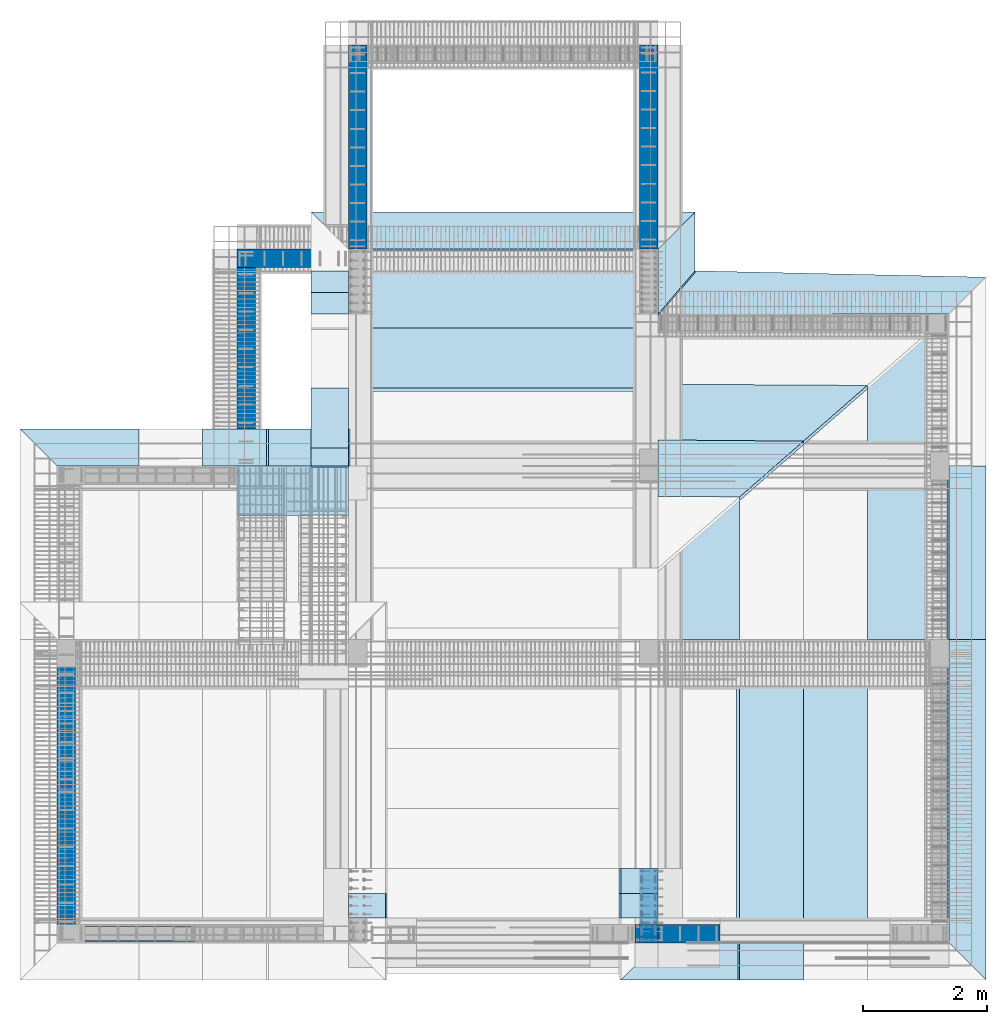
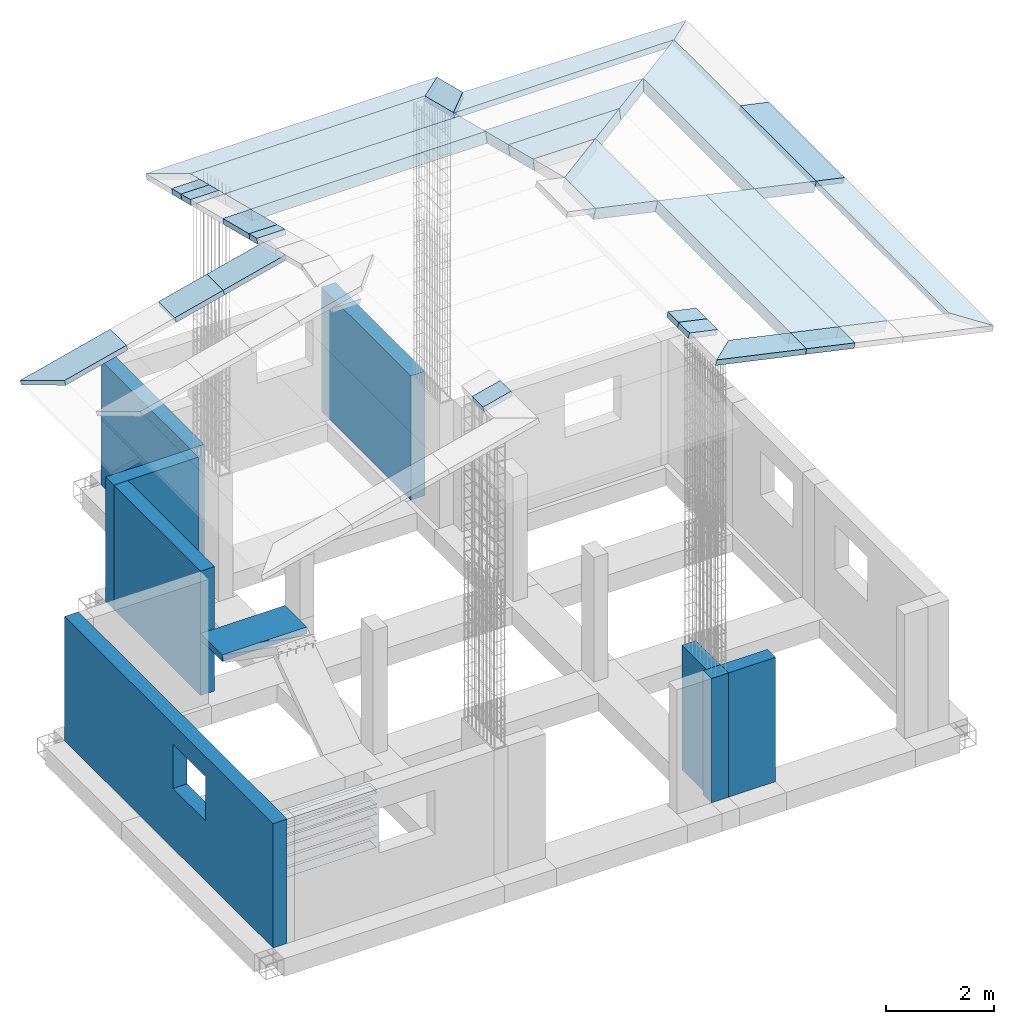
# One storey, part 2 of 15: 25 slabs, 9 walls, 1 reinforcing bar, 1 opening.
"""IFC4 building model written with IfcOpenShell, lengths in metres."""

from ifc_helpers import new_model, entity, si_unit, frame, frame_2d, origin_with_axes, origin_2d_with_axis, place, context, project, spatial, polyline, rectangle, outline, extrude, faceted_brep, source, transform, mapped, material, layer, layer_set, layer_usage, type_object, element, save


model = new_model("IFC4")

# Units and contexts
model_context = context("Model", 3, precision=1e-05, world=origin_with_axes())
ifc_project = project(units=[si_unit("LENGTHUNIT", "METRE"), si_unit("AREAUNIT", "SQUARE_METRE"), si_unit("VOLUMEUNIT", "CUBIC_METRE"), si_unit("MASSUNIT", "GRAM", prefix="KILO"), si_unit("TIMEUNIT", "SECOND"), si_unit("PLANEANGLEUNIT", "RADIAN"), si_unit("SOLIDANGLEUNIT", "STERADIAN"), si_unit("THERMODYNAMICTEMPERATUREUNIT", "DEGREE_CELSIUS")], contexts=[model_context])

# Site, building, storey
placement_1 = place(None, origin_with_axes())
site = spatial("IfcSite", under=ifc_project, at=placement_1, Name="Italia", CompositionType="ELEMENT")
building = spatial("IfcBuilding", under=site, at=placement_1, Name="Bifamiliare", CompositionType="ELEMENT")
storey = spatial("IfcBuildingStorey", under=building, at=placement_1, Name="Storey 0", CompositionType="ELEMENT", Elevation=0.0)

# Slabs
ifc_material_1 = material(Name="Concrete", Category="Concrete")
slab_type_1 = type_object("IfcSlabType", Name="2 Solaio copertura", PredefinedType="FLOOR", material=ifc_material_1)
placement_2 = place(placement_1, origin_with_axes())
slab_1_placement = place(placement_2, origin_with_axes())
element("IfcSlab", 1, at=slab_1_placement, inside=storey, type_object=slab_type_1, Name="304", context=model_context, shape_type="SweptSolid", body=[
    extrude(outline(polyline([(0.0, 0.0), (-5.0, 0.0), (-5.0, 0.999968), (0.0, 0.999968), (0.0, 0.938114), (0.0, 0.0)])), frame((10.8, 11.33, 9.31812), z_axis=(0.0, -0.242980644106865, -0.970031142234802), x_axis=(1.0, 0.0, 0.0)), (0.0, 0.0, 1.0), 0.24),
])
ifc_material_2 = material(Name="Concrete", Category="Concrete")
slab_type_2 = type_object("IfcSlabType", Name="2 Solaio copertura", PredefinedType="FLOOR", material=ifc_material_2)
slab_2_placement = place(placement_2, origin_with_axes())
element("IfcSlab", 2, at=slab_2_placement, inside=storey, type_object=slab_type_2, Name="305", context=model_context, shape_type="SweptSolid", body=[
    extrude(outline(polyline([(0.0, 0.0), (-5.0, 0.0), (-5.0, 0.360814), (-5.0, 0.721626), (-5.0, 1.08244), (-5.0, 1.30924), (0.0, 1.30924), (0.0, 1.08244), (0.0, 0.721626), (0.0, 0.360814), (0.0, 0.0)])), frame((10.8, 12.6, 9.0), z_axis=(0.0, -0.242980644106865, -0.970031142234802), x_axis=(1.0, 0.0, 0.0)), (0.0, 0.0, 1.0), 0.24),
])
ifc_material_3 = material(Name="Concrete", Category="Concrete")
slab_type_3 = type_object("IfcSlabType", Name="2 Solaio copertura", PredefinedType="FLOOR", material=ifc_material_3)
slab_3_placement = place(placement_2, origin_with_axes())
element("IfcSlab", 3, at=slab_3_placement, inside=storey, type_object=slab_type_3, Name="307", context=model_context, shape_type="SweptSolid", body=[
    extrude(outline(polyline([(0.0, 0.0), (0.000385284, 0.134015), (0.00124454, 0.432973), (0.00269699, 0.93811), (1.32272, 0.944329), (2.35005, 0.0134974), (0.0, 0.0)])), frame((10.8, 9.52, 9.77149), z_axis=(-0.000719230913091, -0.242738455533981, -0.97009152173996), x_axis=(0.999995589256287, -0.00296297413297, 0.0)), (0.0, 0.0, 1.0), 0.239999),
])
ifc_material_4 = material(Name="Concrete", Category="Concrete")
slab_type_4 = type_object("IfcSlabType", Name="2 Solaio copertura", PredefinedType="FLOOR", material=ifc_material_4)
slab_4_placement = place(placement_2, origin_with_axes())
element("IfcSlab", 4, at=slab_4_placement, inside=storey, type_object=slab_type_4, Name="308", context=model_context, shape_type="SweptSolid", body=[
    extrude(outline(polyline([(0.0, 0.0), (0.000137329, 0.0618534), (0.00206184, 0.927803), (2.3521, 0.942833), (3.38004, 0.012671), (0.0, 0.0)])), frame((10.8, 10.42, 9.54606), z_axis=(-0.000556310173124, -0.242825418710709, -0.970069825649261), x_axis=(0.99999737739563, -0.002290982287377, 0.0)), (0.0, 0.0, 1.0), 0.24),
])
ifc_material_5 = material(Name="Concrete", Category="Concrete")
slab_type_5 = type_object("IfcSlabType", Name="2 Solaio copertura", PredefinedType="FLOOR", material=ifc_material_5)
slab_5_placement = place(placement_2, origin_with_axes())
element("IfcSlab", 5, at=slab_5_placement, inside=storey, type_object=slab_type_5, Name="310", context=model_context, shape_type="SweptSolid", body=[
    extrude(outline(polyline([(0.0, 0.0), (-2.3, 0.0), (-1.15, 1.35133), (0.0, 1.35133), (0.0, 0.0)])), frame((12.12, 6.3, 10.0007), z_axis=(-0.214068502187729, 0.0, -0.976818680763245), x_axis=(0.0, -1.0, 0.0)), (0.0, 0.0, 1.0), 0.24),
])
ifc_material_6 = material(Name="Concrete", Category="Concrete")
slab_type_6 = type_object("IfcSlabType", Name="2 Solaio copertura", PredefinedType="FLOOR", material=ifc_material_6)
slab_6_placement = place(placement_2, origin_with_axes())
element("IfcSlab", 6, at=slab_6_placement, inside=storey, type_object=slab_type_6, Name="313", context=model_context, shape_type="SweptSolid", body=[
    extrude(outline(polyline([(0.0, 0.0), (-2.8, 0.0), (-5.25, 0.0), (-4.1, 1.35133), (0.0, 1.35133), (0.0, 0.0)])), frame((15.5, 6.3, 9.26), z_axis=(-0.214068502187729, 0.0, -0.976818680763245), x_axis=(0.0, -1.0, 0.0)), (0.0, 0.0, 1.0), 0.24),
])
ifc_material_7 = material(Name="Concrete", Category="Concrete")
slab_type_7 = type_object("IfcSlabType", Name="2 Solaio copertura", PredefinedType="FLOOR", material=ifc_material_7)
slab_7_placement = place(placement_2, origin_with_axes())
element("IfcSlab", 7, at=slab_7_placement, inside=storey, type_object=slab_type_7, Name="315", context=model_context, shape_type="SweptSolid", body=[
    extrude(outline(polyline([(0.0, 0.0), (-4.9, 0.0), (-4.9, 1.05444), (0.0, 1.05444), (0.0, 0.0)])), frame((14.18, 1.4, 9.54928), z_axis=(-0.214068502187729, 0.0, -0.976818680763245), x_axis=(0.0, -1.0, 0.0)), (0.0, 0.0, 1.0), 0.24),
])
ifc_material_8 = material(Name="Concrete", Category="Concrete")
slab_type_8 = type_object("IfcSlabType", Name="2 Solaio copertura", PredefinedType="FLOOR", material=ifc_material_8)
slab_8_placement = place(placement_2, origin_with_axes())
element("IfcSlab", 8, at=slab_8_placement, inside=storey, type_object=slab_type_8, Name="316", context=model_context, shape_type="SweptSolid", body=[
    extrude(outline(polyline([(0.0, 0.0), (-4.9, 0.0), (-4.9, 1.05444), (0.0, 1.05444), (0.0, 0.0)])), frame((13.15, 1.4, 9.775), z_axis=(-0.214068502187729, 0.0, -0.976818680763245), x_axis=(0.0, -1.0, 0.0)), (0.0, 0.0, 1.0), 0.24),
])
ifc_material_9 = material(Name="Concrete", Category="Concrete")
slab_type_9 = type_object("IfcSlabType", Name="3 Aggetto di gronda", PredefinedType="FLOOR", material=ifc_material_9)
slab_9_placement = place(placement_2, origin_with_axes())
element("IfcSlab", 9, at=slab_9_placement, inside=storey, type_object=slab_type_9, Name="318", context=model_context, shape_type="SweptSolid", body=[
    extrude(outline(polyline([(0.0, 0.0), (-4.69991, -0.0282536), (-4.09548, -0.746116), (0.603787, -0.61044), (0.0, 0.0)])), frame((15.5, 11.55, 9.26), z_axis=(0.001462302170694, -0.23098811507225, -0.972955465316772), x_axis=(0.999979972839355, 0.006330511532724, 0.0)), (0.0, 0.0, 1.0), 0.12),
])
ifc_material_10 = material(Name="Concrete", Category="Concrete")
slab_type_10 = type_object("IfcSlabType", Name="3 Aggetto di gronda", PredefinedType="FLOOR", material=ifc_material_10)
slab_10_placement = place(placement_2, origin_with_axes())
element("IfcSlab", 10, at=slab_10_placement, inside=storey, type_object=slab_type_10, Name="319", context=model_context, shape_type="SweptSolid", body=[
    extrude(outline(polyline([(0.0, 0.0), (-0.6, 0.618537), (-0.6, 0.979351), (-0.6, 1.34016), (-0.6, 1.70098), (0.0, 0.979351), (0.0, 0.0)])), frame((11.4, 13.2, 8.84971), z_axis=(0.0, -0.242980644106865, -0.970031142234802), x_axis=(1.0, 0.0, 0.0)), (0.0, 0.0, 1.0), 0.12),
])
ifc_material_11 = material(Name="Concrete", Category="Concrete")
slab_type_11 = type_object("IfcSlabType", Name="3 Aggetto di gronda", PredefinedType="FLOOR", material=ifc_material_11)
slab_11_placement = place(placement_2, origin_with_axes())
element("IfcSlab", 11, at=slab_11_placement, inside=storey, type_object=slab_type_11, Name="320", context=model_context, shape_type="SweptSolid", body=[
    extrude(outline(polyline([(0.0, 0.0), (-5.0, 0.0), (-5.6, -0.618537), (0.6, -0.618537), (0.0, 0.0)])), frame((10.8, 12.6, 9.0), z_axis=(0.0, -0.242980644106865, -0.970031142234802), x_axis=(1.0, 0.0, 0.0)), (0.0, 0.0, 1.0), 0.12),
])
ifc_material_12 = material(Name="Concrete", Category="Concrete")
slab_type_12 = type_object("IfcSlabType", Name="3 Aggetto di gronda", PredefinedType="FLOOR", material=ifc_material_12)
slab_12_placement = place(placement_2, origin_with_axes())
element("IfcSlab", 12, at=slab_12_placement, inside=storey, type_object=slab_type_12, Name="322", context=model_context, shape_type="SweptSolid", body=[
    extrude(outline(polyline([(0.0, 0.0), (0.0, 0.360812), (-0.6, 0.360812), (-0.6, 0.0), (0.0, 0.0)])), frame((5.8, 12.25, 9.08767), z_axis=(0.0, -0.242980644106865, -0.970031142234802), x_axis=(1.0, 0.0, 0.0)), (0.0, 0.0, 1.0), 0.12),
])
ifc_material_13 = material(Name="Concrete", Category="Concrete")
slab_type_13 = type_object("IfcSlabType", Name="3 Aggetto di gronda", PredefinedType="FLOOR", material=ifc_material_13)
slab_13_placement = place(placement_2, origin_with_axes())
element("IfcSlab", 13, at=slab_13_placement, inside=storey, type_object=slab_type_13, Name="323", context=model_context, shape_type="SweptSolid", body=[
    extrude(outline(polyline([(0.0, 0.0), (0.0, 0.360813), (-0.6, 0.360813), (-0.6, 0.0), (0.0, 0.0)])), frame((5.8, 11.9, 9.17534), z_axis=(0.0, -0.242980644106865, -0.970031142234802), x_axis=(1.0, 0.0, 0.0)), (0.0, 0.0, 1.0), 0.12),
])
ifc_material_14 = material(Name="Concrete", Category="Concrete")
slab_type_14 = type_object("IfcSlabType", Name="3 Aggetto di gronda", PredefinedType="FLOOR", material=ifc_material_14)
slab_14_placement = place(placement_2, origin_with_axes())
element("IfcSlab", 14, at=slab_14_placement, inside=storey, type_object=slab_type_14, Name="326", context=model_context, shape_type="SweptSolid", body=[
    extrude(outline(polyline([(0.0, 0.0), (0.0, 0.999967), (-0.6, 0.999967), (-0.6, 0.0), (0.0, 0.0)])), frame((5.8, 10.36, 9.56109), z_axis=(0.0, -0.242980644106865, -0.970031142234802), x_axis=(1.0, 0.0, 0.0)), (0.0, 0.0, 1.0), 0.12),
])
ifc_material_15 = material(Name="Concrete", Category="Concrete")
slab_type_15 = type_object("IfcSlabType", Name="3 Aggetto di gronda", PredefinedType="FLOOR", material=ifc_material_15)
slab_15_placement = place(placement_2, origin_with_axes())
element("IfcSlab", 15, at=slab_15_placement, inside=storey, type_object=slab_type_15, Name="327", context=model_context, shape_type="SweptSolid", body=[
    extrude(outline(polyline([(0.0, 0.0), (0.0, 0.298959), (-0.6, 0.298959), (-0.6, 0.0), (0.0, 0.0)])), frame((5.8, 9.39, 9.80406), z_axis=(0.0, -0.242980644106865, -0.970031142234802), x_axis=(1.0, 0.0, 0.0)), (0.0, 0.0, 1.0), 0.12),
])
ifc_material_16 = material(Name="Concrete", Category="Concrete")
slab_type_16 = type_object("IfcSlabType", Name="3 Aggetto di gronda", PredefinedType="FLOOR", material=ifc_material_16)
slab_16_placement = place(placement_2, origin_with_axes())
element("IfcSlab", 16, at=slab_16_placement, inside=storey, type_object=slab_type_16, Name="330", context=model_context, shape_type="SweptSolid", body=[
    extrude(outline(polyline([(0.0, 0.0), (0.0, -1.36097), (0.6, -1.36097), (0.6, 0.0), (0.0, 0.0)])), frame((5.8, 9.1, 9.29), z_axis=(0.243504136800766, 0.0, -0.969899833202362), x_axis=(0.0, 1.0, 0.0)), (0.0, 0.0, 1.0), 0.12),
])
ifc_material_17 = material(Name="Concrete", Category="Concrete")
slab_type_17 = type_object("IfcSlabType", Name="3 Aggetto di gronda", PredefinedType="FLOOR", material=ifc_material_17)
slab_17_placement = place(placement_2, origin_with_axes())
element("IfcSlab", 17, at=slab_17_placement, inside=storey, type_object=slab_type_17, Name="331", context=model_context, shape_type="SweptSolid", body=[
    extrude(outline(polyline([(0.0, 0.0), (0.0, -1.06197), (0.6, -1.06197), (0.6, 0.0), (0.0, 0.0)])), frame((4.48, 9.1, 8.9586), z_axis=(0.243507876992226, 0.0, -0.96989893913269), x_axis=(0.0, 1.0, 0.0)), (0.0, 0.0, 1.0), 0.12),
])
ifc_material_18 = material(Name="Concrete", Category="Concrete")
slab_type_18 = type_object("IfcSlabType", Name="3 Aggetto di gronda", PredefinedType="FLOOR", material=ifc_material_18)
slab_18_placement = place(placement_2, origin_with_axes())
element("IfcSlab", 18, at=slab_18_placement, inside=storey, type_object=slab_type_18, Name="333", context=model_context, shape_type="SweptSolid", body=[
    extrude(outline(polyline([(0.0, 0.0), (0.0, -1.36097), (0.6, -1.97959), (0.6, 0.0), (0.0, 0.0)])), frame((2.42, 9.1, 8.4414), z_axis=(0.243505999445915, 0.0, -0.969899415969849), x_axis=(0.0, 1.0, 0.0)), (0.0, 0.0, 1.0), 0.12),
])
ifc_material_19 = material(Name="Concrete", Category="Concrete")
slab_type_19 = type_object("IfcSlabType", Name="3 Aggetto di gronda", PredefinedType="FLOOR", material=ifc_material_19)
slab_19_placement = place(placement_2, origin_with_axes())
element("IfcSlab", 19, at=slab_19_placement, inside=storey, type_object=slab_type_19, Name="337", context=model_context, shape_type="SweptSolid", body=[
    extrude(outline(polyline([(0.0, 0.0), (0.4, 0.0), (0.4, 0.614238), (0.0, 0.614238), (0.0, 0.0)])), frame((10.8, 2.6, 10.29), z_axis=(-0.214068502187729, 0.0, -0.976818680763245), x_axis=(0.0, -1.0, 0.0)), (0.0, 0.0, 1.0), 0.12),
])
ifc_material_20 = material(Name="Concrete", Category="Concrete")
slab_type_20 = type_object("IfcSlabType", Name="3 Aggetto di gronda", PredefinedType="FLOOR", material=ifc_material_20)
slab_20_placement = place(placement_2, origin_with_axes())
element("IfcSlab", 20, at=slab_20_placement, inside=storey, type_object=slab_type_20, Name="338", context=model_context, shape_type="SweptSolid", body=[
    extrude(outline(polyline([(0.0, 0.0), (0.4, 0.0), (0.4, 0.614238), (0.0, 0.614238), (0.0, 0.0)])), frame((10.8, 2.2, 10.29), z_axis=(-0.214068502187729, 0.0, -0.976818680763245), x_axis=(0.0, -1.0, 0.0)), (0.0, 0.0, 1.0), 0.12),
])
ifc_material_21 = material(Name="Concrete", Category="Concrete")
slab_type_21 = type_object("IfcSlabType", Name="3 Aggetto di gronda", PredefinedType="FLOOR", material=ifc_material_21)
slab_21_placement = place(placement_2, origin_with_axes())
element("IfcSlab", 21, at=slab_21_placement, inside=storey, type_object=slab_type_21, Name="340", context=model_context, shape_type="SweptSolid", body=[
    extrude(outline(polyline([(0.0, 0.0), (0.0, -1.35133), (0.6, -1.35133), (0.6, 0.614238), (0.0, 0.0)])), frame((10.8, 1.4, 10.29), z_axis=(-0.214068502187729, 0.0, -0.976818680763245), x_axis=(0.0, -1.0, 0.0)), (0.0, 0.0, 1.0), 0.12),
])
ifc_material_22 = material(Name="Concrete", Category="Concrete")
slab_type_22 = type_object("IfcSlabType", Name="3 Aggetto di gronda", PredefinedType="FLOOR", material=ifc_material_22)
slab_22_placement = place(placement_2, origin_with_axes())
element("IfcSlab", 22, at=slab_22_placement, inside=storey, type_object=slab_type_22, Name="341", context=model_context, shape_type="SweptSolid", body=[
    extrude(outline(polyline([(0.0, 0.0), (0.0, -1.05444), (0.6, -1.05444), (0.6, 0.0), (0.0, 0.0)])), frame((12.12, 1.4, 10.0007), z_axis=(-0.214068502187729, 0.0, -0.976818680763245), x_axis=(0.0, -1.0, 0.0)), (0.0, 0.0, 1.0), 0.12),
])
ifc_material_23 = material(Name="Concrete", Category="Concrete")
slab_type_23 = type_object("IfcSlabType", Name="3 Aggetto di gronda", PredefinedType="FLOOR", material=ifc_material_23)
slab_23_placement = place(placement_2, origin_with_axes())
element("IfcSlab", 23, at=slab_23_placement, inside=storey, type_object=slab_type_23, Name="344", context=model_context, shape_type="SweptSolid", body=[
    extrude(outline(polyline([(0.0, 0.0), (-4.9, 0.0), (-4.9, -0.614239), (0.6, -0.614239), (0.0, 0.0)])), frame((15.5, 1.4, 9.26), z_axis=(-0.214068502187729, 0.0, -0.976818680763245), x_axis=(0.0, -1.0, 0.0)), (0.0, 0.0, 1.0), 0.12),
])
ifc_material_24 = material(Name="Concrete", Category="Concrete")
slab_type_24 = type_object("IfcSlabType", Name="3 Aggetto di gronda", PredefinedType="FLOOR", material=ifc_material_24)
slab_24_placement = place(placement_2, origin_with_axes())
element("IfcSlab", 24, at=slab_24_placement, inside=storey, type_object=slab_type_24, Name="345", context=model_context, shape_type="SweptSolid", body=[
    extrude(outline(polyline([(0.0, 0.0), (-2.8, 0.0), (-2.8, -0.614239), (0.0, -0.614239), (0.0, 0.0)])), frame((15.5, 6.3, 9.26), z_axis=(-0.214068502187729, 0.0, -0.976818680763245), x_axis=(0.0, -1.0, 0.0)), (0.0, 0.0, 1.0), 0.12),
])
ifc_material_25 = material(Name="Concrete", Category="Concrete")
slab_type_25 = type_object("IfcSlabType", Name="3 Aggetto di gronda", PredefinedType="FLOOR", material=ifc_material_25)
slab_25_placement = place(placement_2, origin_with_axes())
element("IfcSlab", 25, at=slab_25_placement, inside=storey, type_object=slab_type_25, Name="358", context=model_context, shape_type="SweptSolid", body=[
    extrude(outline(polyline([(0.0, 0.0), (0.4, 0.0), (0.4, 0.618621), (0.0, 0.618621), (0.0, 0.0)])), frame((5.8, 1.8, 10.29), z_axis=(0.243507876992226, 0.0, -0.96989893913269), x_axis=(0.0, 1.0, 0.0)), (0.0, 0.0, 1.0), 0.12),
])

# Walls
ifc_material_26 = material(Name="Calcestruzzo", Category="Calcestruzzo")
ifc_layer_1 = layer(ifc_material_26, 0.3)
ifc_layer_set_1 = layer_set([ifc_layer_1])
ifc_layer_usage_1 = layer_usage(ifc_layer_set_1, "AXIS2", "POSITIVE", -0.3)
wall_type_1 = type_object("IfcWallType", Name="1 Pareti", PredefinedType="STANDARD")
wall_1_placement = place(placement_2, origin_with_axes())
element("IfcWallStandardCase", 26, at=wall_1_placement, inside=storey, type_object=wall_type_1, material=ifc_layer_usage_1, Name="121", context=model_context, shape_type="SweptSolid", body=[
    extrude(rectangle(XDim=1.0, YDim=0.3, at=origin_2d_with_axis()), frame((11.3, 1.55, 0.0), z_axis=(0.0, 0.0, 1.0), x_axis=(1.0, 0.0, 0.0)), (0.0, 0.0, 1.0), 2.8),
])
ifc_material_27 = material(Name="Calcestruzzo", Category="Calcestruzzo")
ifc_layer_2 = layer(ifc_material_27, 0.3)
ifc_layer_set_2 = layer_set([ifc_layer_2])
ifc_layer_usage_2 = layer_usage(ifc_layer_set_2, "AXIS2", "POSITIVE", -0.3)
wall_type_2 = type_object("IfcWallType", Name="4 Nuclei", PredefinedType="STANDARD")
wall_2_placement = place(placement_2, origin_with_axes())
element("IfcWallStandardCase", 27, at=wall_2_placement, inside=storey, type_object=wall_type_2, material=ifc_layer_usage_2, Name="110", context=model_context, shape_type="SweptSolid", body=[
    extrude(rectangle(XDim=1.2, YDim=0.3, at=origin_2d_with_axis()), frame((10.65, 2.0, 0.0), z_axis=(0.0, 0.0, 1.0), x_axis=(0.0, 1.0, 0.0)), (0.0, 0.0, 1.0), 2.8),
])
ifc_material_28 = material(Name="Calcestruzzo", Category="Calcestruzzo")
ifc_layer_3 = layer(ifc_material_28, 0.3)
ifc_layer_set_3 = layer_set([ifc_layer_3])
ifc_layer_usage_3 = layer_usage(ifc_layer_set_3, "AXIS2", "POSITIVE", -0.3)
wall_type_3 = type_object("IfcWallType", Name="1 Pareti", PredefinedType="STANDARD")
wall_3_placement = place(placement_2, origin_with_axes())
element("IfcWallStandardCase", 28, at=wall_3_placement, inside=storey, type_object=wall_type_3, material=ifc_layer_usage_3, Name="119", context=model_context, shape_type="SweptSolid", body=[
    extrude(rectangle(XDim=3.3, YDim=0.3, at=origin_2d_with_axis()), frame((10.65, 14.25, 0.0), z_axis=(0.0, 0.0, 1.0), x_axis=(0.0, 1.0, 0.0)), (0.0, 0.0, 1.0), 2.8),
])
ifc_material_29 = material(Name="Calcestruzzo", Category="Calcestruzzo")
ifc_layer_4 = layer(ifc_material_29, 0.15)
ifc_layer_set_4 = layer_set([ifc_layer_4])
ifc_layer_usage_4 = layer_usage(ifc_layer_set_4, "AXIS2", "POSITIVE", -0.15)
wall_type_4 = type_object("IfcWallType", Name="2 Scala", PredefinedType="STANDARD")
wall_4_placement = place(placement_2, origin_with_axes())
element("IfcWall", 29, at=wall_4_placement, inside=storey, type_object=wall_type_4, material=ifc_layer_usage_4, context=model_context, shape_type="Brep", body=[
    faceted_brep([(4.0, 9.1, 1.4), (4.0, 9.1, 1.25), (5.8, 9.1, 1.25), (5.8, 9.1, 1.4), (5.8, 9.1, 1.4), (5.8, 9.1, 1.25), (5.8, 8.3, 1.25), (5.8, 8.3, 1.4), (5.8, 8.3, 1.4), (5.8, 8.3, 1.25), (4.0, 8.3, 1.25), (4.0, 8.3, 1.4), (4.0, 8.3, 1.4), (4.0, 8.3, 1.25), (4.0, 9.1, 1.25), (4.0, 9.1, 1.4), (4.0, 9.1, 1.25), (5.8, 9.1, 1.25), (5.8, 8.3, 1.25), (4.0, 8.3, 1.25), (4.0, 9.1, 1.4), (5.8, 9.1, 1.4), (5.8, 8.3, 1.4), (4.0, 8.3, 1.4)], [[[0, 1, 2, 3]], [[4, 5, 6, 7]], [[8, 9, 10, 11]], [[12, 13, 14, 15]], [[16, 17, 18, 19]], [[20, 21, 22, 23]]]),
])
ifc_material_30 = material(Name="Calcestruzzo", Category="Calcestruzzo")
ifc_layer_5 = layer(ifc_material_30, 0.3)
ifc_layer_set_5 = layer_set([ifc_layer_5])
ifc_layer_usage_5 = layer_usage(ifc_layer_set_5, "AXIS2", "POSITIVE", -0.3)
wall_type_5 = type_object("IfcWallType", Name="1 Pareti", PredefinedType="STANDARD")
wall_5_placement = place(placement_2, origin_with_axes())
element("IfcWallStandardCase", 30, at=wall_5_placement, inside=storey, type_object=wall_type_5, material=ifc_layer_usage_5, Name="117", context=model_context, shape_type="SweptSolid", body=[
    extrude(rectangle(XDim=1.8, YDim=0.3, at=origin_2d_with_axis()), frame((4.9, 12.45, 0.0), z_axis=(0.0, 0.0, 1.0), x_axis=(1.0, 0.0, 0.0)), (0.0, 0.0, 1.0), 2.8),
])
ifc_material_31 = material(Name="Calcestruzzo", Category="Calcestruzzo")
ifc_layer_6 = layer(ifc_material_31, 0.3)
ifc_layer_set_6 = layer_set([ifc_layer_6])
ifc_layer_usage_6 = layer_usage(ifc_layer_set_6, "AXIS2", "POSITIVE", -0.3)
wall_type_6 = type_object("IfcWallType", Name="1 Pareti", PredefinedType="STANDARD")
wall_6_placement = place(placement_2, origin_with_axes())
element("IfcWallStandardCase", 31, at=wall_6_placement, inside=storey, type_object=wall_type_6, material=ifc_layer_usage_6, Name="116", context=model_context, shape_type="SweptSolid", body=[
    extrude(rectangle(XDim=3.5, YDim=0.3, at=origin_2d_with_axis()), frame((4.15, 10.85, 0.0), z_axis=(0.0, 0.0, 1.0), x_axis=(0.0, 1.0, 0.0)), (0.0, 0.0, 1.0), 2.8),
])

# Wall, opening
ifc_material_32 = material(Name="Calcestruzzo", Category="Calcestruzzo")
ifc_layer_7 = layer(ifc_material_32, 0.3)
ifc_layer_set_7 = layer_set([ifc_layer_7])
ifc_layer_usage_7 = layer_usage(ifc_layer_set_7, "AXIS2", "POSITIVE", -0.3)
wall_type_7 = type_object("IfcWallType", Name="1 Pareti", PredefinedType="STANDARD")
wall_7_placement = place(placement_2, origin_with_axes())
wall_7 = element("IfcWallStandardCase", 32, at=wall_7_placement, inside=storey, type_object=wall_type_7, material=ifc_layer_usage_7, Name="114", context=model_context, shape_type="SweptSolid", body=[
    extrude(rectangle(XDim=7.7, YDim=0.3, at=origin_2d_with_axis()), frame((1.25, 5.25, 0.0), z_axis=(0.0, 0.0, 1.0), x_axis=(0.0, 1.0, 0.0)), (0.0, 0.0, 1.0), 2.8),
])
placement_3 = place(None, frame((1.100000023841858, 9.100000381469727, 0.0), z_axis=(0.0, 0.0, 1.0), x_axis=(0.0, -1.0, 0.0)))
opening_placement = place(placement_3, frame((4.000000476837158, 0.0, 1.350000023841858), z_axis=(0.0, 0.0, 1.0), x_axis=(0.0, 1.0, 0.0)))
element("IfcOpeningElement", 33, at=opening_placement, cuts=wall_7, Name="Opening 1", ObjectType="Opening", context=model_context, shape_type="SweptSolid", body=[
    extrude(rectangle(XDim=1.0, YDim=1.2, at=frame_2d((0.5, 0.6), x_axis=(1.0, 0.0))), frame((0.0, 0.0, 0.0), z_axis=(1.0, 0.0, 0.0), x_axis=(0.0, 0.0, 1.0)), (0.0, 0.0, 1.0), 0.3),
])

# Walls
ifc_material_33 = material(Name="Calcestruzzo", Category="Calcestruzzo")
ifc_layer_8 = layer(ifc_material_33, 0.3)
ifc_layer_set_8 = layer_set([ifc_layer_8])
ifc_layer_usage_8 = layer_usage(ifc_layer_set_8, "AXIS2", "POSITIVE", -0.3)
wall_type_8 = type_object("IfcWallType", Name="1 Pareti", PredefinedType="STANDARD")
wall_8_placement = place(placement_2, origin_with_axes())
element("IfcWallStandardCase", 34, at=wall_8_placement, inside=storey, type_object=wall_type_8, material=ifc_layer_usage_8, Name="109", context=model_context, shape_type="SweptSolid", body=[
    extrude(rectangle(XDim=3.3, YDim=0.3, at=origin_2d_with_axis()), frame((5.95, 14.25, 0.0), z_axis=(0.0, 0.0, 1.0), x_axis=(0.0, 1.0, 0.0)), (0.0, 0.0, 1.0), 2.8),
])
ifc_material_34 = material(Name="Calcestruzzo", Category="Calcestruzzo")
ifc_layer_9 = layer(ifc_material_34, 0.3)
ifc_layer_set_9 = layer_set([ifc_layer_9])
ifc_layer_usage_9 = layer_usage(ifc_layer_set_9, "AXIS2", "POSITIVE", -0.3)
wall_type_9 = type_object("IfcWallType", Name="4 Nuclei", PredefinedType="STANDARD")
wall_9_placement = place(placement_2, origin_with_axes())
element("IfcWallStandardCase", 35, at=wall_9_placement, inside=storey, type_object=wall_type_9, material=ifc_layer_usage_9, Name="124", context=model_context, shape_type="SweptSolid", body=[
    extrude(rectangle(XDim=0.366667, YDim=0.3, at=origin_2d_with_axis()), frame((10.6167, 1.55, 0.0), z_axis=(0.0, 0.0, 1.0), x_axis=(1.0, 0.0, 0.0)), (0.0, 0.0, 1.0), 2.8),
])

# Reinforcing bar
shared_shape = source(origin_with_axes(), model_context, "Body", "AdvancedSweptSolid", [
    entity("IfcSweptDiskSolid", entity("IfcIndexedPolyCurve", entity("IfcCartesianPointList3D", [[3.32, 1.68, 1.475], [3.32, 1.44, 1.475], [3.31924, 1.43617, 1.475], [3.31707, 1.43293, 1.475], [3.31383, 1.43076, 1.475], [3.31, 1.43, 1.475], [1.14, 1.43, 1.475], [1.13617, 1.43076, 1.475], [1.13293, 1.43293, 1.475], [1.13076, 1.43617, 1.475], [1.13, 1.44, 1.475], [1.13, 1.68, 1.475]]), [entity("IfcLineIndex", [1, 2]), entity("IfcLineIndex", [2, 3]), entity("IfcLineIndex", [3, 4]), entity("IfcLineIndex", [4, 5]), entity("IfcLineIndex", [5, 6]), entity("IfcLineIndex", [6, 7]), entity("IfcLineIndex", [7, 8]), entity("IfcLineIndex", [8, 9]), entity("IfcLineIndex", [9, 10]), entity("IfcLineIndex", [10, 11]), entity("IfcLineIndex", [11, 12])], False), 0.005),
])
reinforcing_bar_placement = place(placement_2, origin_with_axes())
element("IfcReinforcingBar", 36, at=reinforcing_bar_placement, inside=storey, BarLength=2.68121, CrossSectionArea=7.854e-05, NominalDiameter=0.01, context=model_context, shape_type="MappedRepresentation", body=[
    mapped(shared_shape, transform((0.0, 0.0, 0.5), x_axis=(1.0, 0.0, 0.0), y_axis=(0.0, 1.0, 0.0), z_axis=(0.0, 0.0, 1.0), scale=1.0)),
    mapped(shared_shape, transform((0.0, 0.0, 0.75), x_axis=(1.0, 0.0, 0.0), y_axis=(0.0, 1.0, 0.0), z_axis=(0.0, 0.0, 1.0), scale=1.0)),
    mapped(shared_shape, transform((4.45, 3.1, 0.0), x_axis=(-1.0, 0.0, 0.0), y_axis=(0.0, -1.0, 0.0), z_axis=(0.0, 0.0, 1.0), scale=1.0)),
    mapped(shared_shape, transform((0.0, 0.0, 0.0), x_axis=(1.0, 0.0, 0.0), y_axis=(0.0, 1.0, 0.0), z_axis=(0.0, 0.0, 1.0), scale=1.0)),
    mapped(shared_shape, transform((4.45, 3.1, 0.25), x_axis=(-1.0, 0.0, 0.0), y_axis=(0.0, -1.0, 0.0), z_axis=(0.0, 0.0, 1.0), scale=1.0)),
    mapped(shared_shape, transform((0.0, 0.0, 0.25), x_axis=(1.0, 0.0, 0.0), y_axis=(0.0, 1.0, 0.0), z_axis=(0.0, 0.0, 1.0), scale=1.0)),
    mapped(shared_shape, transform((4.45, 3.1, 0.5), x_axis=(-1.0, 0.0, 0.0), y_axis=(0.0, -1.0, 0.0), z_axis=(0.0, 0.0, 1.0), scale=1.0)),
    mapped(shared_shape, transform((4.45, 3.1, 0.75), x_axis=(-1.0, 0.0, 0.0), y_axis=(0.0, -1.0, 0.0), z_axis=(0.0, 0.0, 1.0), scale=1.0)),
    mapped(shared_shape, transform((0.0, 0.0, 1.225), x_axis=(1.0, 0.0, 0.0), y_axis=(0.0, 1.0, 0.0), z_axis=(0.0, 0.0, 1.0), scale=1.0)),
    mapped(shared_shape, transform((0.0, 0.0, 1.295), x_axis=(1.0, 0.0, 0.0), y_axis=(0.0, 1.0, 0.0), z_axis=(0.0, 0.0, 1.0), scale=1.0)),
    mapped(shared_shape, transform((4.45, 3.1, 0.905), x_axis=(-1.0, 0.0, 0.0), y_axis=(0.0, -1.0, 0.0), z_axis=(0.0, 0.0, 1.0), scale=1.0)),
    mapped(shared_shape, transform((0.0, 0.0, 0.905), x_axis=(1.0, 0.0, 0.0), y_axis=(0.0, 1.0, 0.0), z_axis=(0.0, 0.0, 1.0), scale=1.0)),
    mapped(shared_shape, transform((4.45, 3.1, 0.975), x_axis=(-1.0, 0.0, 0.0), y_axis=(0.0, -1.0, 0.0), z_axis=(0.0, 0.0, 1.0), scale=1.0)),
    mapped(shared_shape, transform((0.0, 0.0, 0.975), x_axis=(1.0, 0.0, 0.0), y_axis=(0.0, 1.0, 0.0), z_axis=(0.0, 0.0, 1.0), scale=1.0)),
    mapped(shared_shape, transform((4.45, 3.1, 1.225), x_axis=(-1.0, 0.0, 0.0), y_axis=(0.0, -1.0, 0.0), z_axis=(0.0, 0.0, 1.0), scale=1.0)),
    mapped(shared_shape, transform((4.45, 3.1, 1.295), x_axis=(-1.0, 0.0, 0.0), y_axis=(0.0, -1.0, 0.0), z_axis=(0.0, 0.0, 1.0), scale=1.0)),
])

save(model, "model.ifc")
